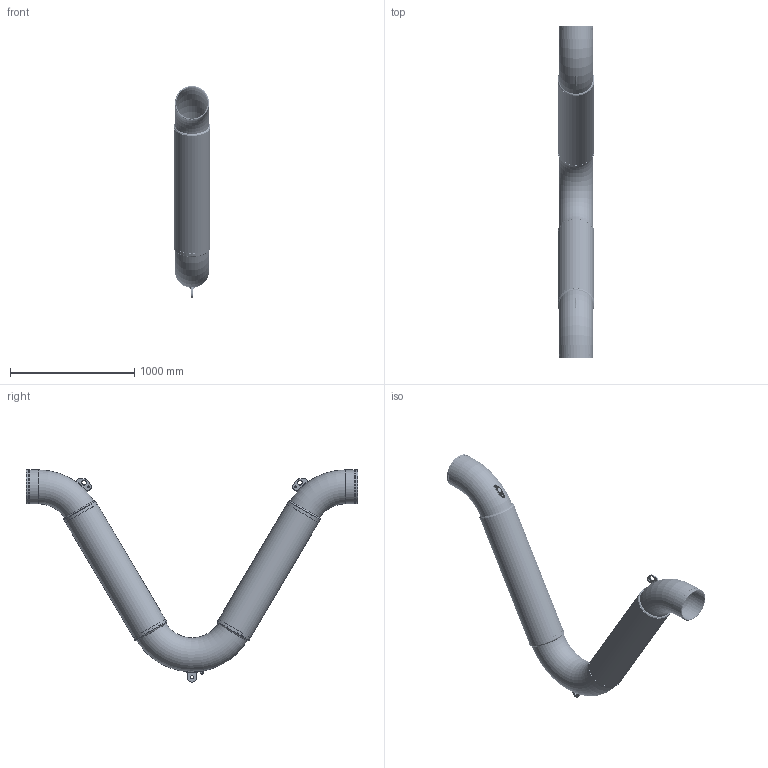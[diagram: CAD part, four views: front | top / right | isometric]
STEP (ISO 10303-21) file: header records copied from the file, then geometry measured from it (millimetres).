
FILE_DESCRIPTION((''),'2;1');
FILE_NAME('\\Mleuckt7400\cad-proe_solids2\WEBSITE FILES 05.22.13\STEP\VGWN\VGWN-10.stp','2013-07-23T10:56:27',('rramoutar'),(''),'Autodesk Inventor 2012','Autodesk Inventor 2012','');
FILE_SCHEMA(('AUTOMOTIVE_DESIGN { 1 0 10303 214 1 1 1 1 }'));
Length unit declared in the file: inch
Products named in the file (12): A-30593-3 VGN 10 INCH.iam (LevelofDetail1); A-30593-3 VGN 10 INCH.iam (LevelofDetail1)_Welds; A-30593-3 ELBOW 120 DEG FOR 10 INCH VGN; A-28697-2 SUPORT CLIP VGN,VFL 10INCH & 12INCH; A-30713 A36 STEEL PLUG 0.5 inch; A-30713 A36 STEEL COUPLING 0.5 inch; A-30593-3 VGN 10 INCH NIPPLE; A-30593-3 ELBOW 60 DEG FOR 10 INCH VGN; A-30593-3 VGN 10 inch BRAID; A-29781-7 10.0 inch braid collar; A-29781-7 VGN 10.0 inch STAINLESS STEEL HOSE; A-29799-1 CLIP VGN,VFL 5 TO 12 INCH
Assembly tree (19 placements, depth 2):
  A-30593-3 VGN 10 INCH.iam (LevelofDetail1)
    A-30593-3 VGN 10 INCH.iam (LevelofDetail1)_Welds
    A-30593-3 ELBOW 120 DEG FOR 10 INCH VGN
    A-28697-2 SUPORT CLIP VGN,VFL 10INCH & 12INCH
    A-30713 A36 STEEL PLUG 0.5 inch
    A-30713 A36 STEEL COUPLING 0.5 inch
    A-30593-3 VGN 10 INCH NIPPLE  x2
    A-30593-3 ELBOW 60 DEG FOR 10 INCH VGN  x2
    A-30593-3 VGN 10 inch BRAID  x2
    A-29781-7 10.0 inch braid collar  x4
    A-29781-7 VGN 10.0 inch STAINLESS STEEL HOSE  x2
    A-29799-1 CLIP VGN,VFL 5 TO 12 INCH  x2
Bounding box: 297.17 x 2667 x 1704.97 mm (x, y, z)
Volume: 21263342.5 mm3; surface area: 19235981.5 mm2
Topology: 26 solids, 26 shells, 1385 faces, 2162 edges, 1442 vertices
Faces by surface type: plane 692, torus 634, cylinder 40, bspline 15, cone 4
Full cylindrical faces by diameter (mm): 15.875 x2, 18.256 x1, 21.336 x2, 25.4 x1, 28.575 x3, 38.1 x2, 254.508 x2, 268.275 x2, 273.05 x4, 291.084 x2, 292.1 x4, 294.259 x2, 296.863 x4
Entity records: 26827 total; most frequent: CARTESIAN_POINT 13797, DIRECTION 2907, ORIENTED_EDGE 1614, AXIS2_PLACEMENT_3D 1431, EDGE_LOOP 1402, EDGE_CURVE 807, VERTEX_POINT 761, FACE_OUTER_BOUND 725
